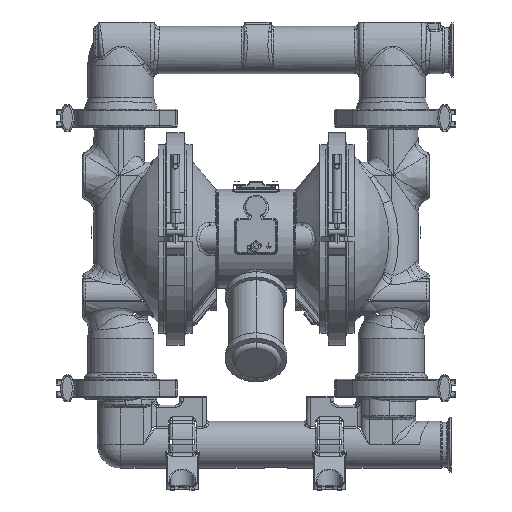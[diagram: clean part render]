
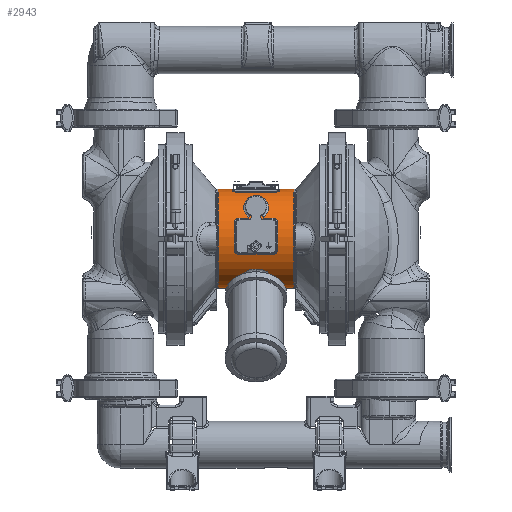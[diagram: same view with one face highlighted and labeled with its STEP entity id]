
A CAD part, top view. The second image highlights one B-rep face of the part: STEP entity #2943.
In plain terms, the highlighted cylindrical face has radius 69.85 mm (diameter 139.7 mm), a partial arc.
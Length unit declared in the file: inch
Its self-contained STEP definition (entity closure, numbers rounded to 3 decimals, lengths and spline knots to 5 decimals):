
#1=DIRECTION('',(1.,0.,0.));
#2=VECTOR('',#1,2.1);
#3=CARTESIAN_POINT('',(-1.05,2.58454,0.9395));
#4=LINE('',#3,#2);
#593=DIRECTION('',(1.,0.,0.));
#594=VECTOR('',#593,0.795);
#595=CARTESIAN_POINT('',(1.31,2.75,0.));
#596=LINE('',#595,#594);
#615=DIRECTION('',(1.,0.,0.));
#616=VECTOR('',#615,0.795);
#617=CARTESIAN_POINT('',(-2.105,2.75,0.));
#618=LINE('',#617,#616);
#1205=CARTESIAN_POINT('',(-1.31,2.64162,-0.76444));
#1207=CARTESIAN_POINT('',(-1.31,0.,0.));
#1208=DIRECTION('',(-1.,0.,0.));
#1209=DIRECTION('',(0.,0.961,-0.278));
#1210=AXIS2_PLACEMENT_3D('',#1207,#1208,#1209);
#1238=CARTESIAN_POINT('',(-1.31,1.61417,
-2.22642));
#1239=CARTESIAN_POINT('',(-1.31,1.59144,
-2.2429));
#1240=CARTESIAN_POINT('',(-1.30677,1.54774,
-2.27352));
#1241=CARTESIAN_POINT('',(-1.29563,1.48834,
-2.31276));
#1242=CARTESIAN_POINT('',(-1.28015,1.43434,
-2.34657));
#1243=CARTESIAN_POINT('',(-1.26151,1.38558,
-2.37563));
#1244=CARTESIAN_POINT('',(-1.24047,1.34181,
-2.40058));
#1245=CARTESIAN_POINT('',(-1.21742,1.30287,
-2.4219));
#1246=CARTESIAN_POINT('',(-1.1926,1.26881,
-2.43989));
#1247=CARTESIAN_POINT('',(-1.16609,1.23975,
-2.45475));
#1248=CARTESIAN_POINT('',(-1.13794,1.21615,
-2.4665));
#1249=CARTESIAN_POINT('',(-1.10831,1.19868,
-2.47502));
#1250=CARTESIAN_POINT('',(-1.07806,1.18849,
-2.47992));
#1251=CARTESIAN_POINT('',(-1.05923,1.18649,
-2.48087));
#1252=CARTESIAN_POINT('',(-1.05,1.1865,
-2.48087));
#1263=DIRECTION('',(1.,0.,0.));
#1264=VECTOR('',#1263,2.1);
#1265=CARTESIAN_POINT('',(-1.05,1.1865,
-2.48087));
#1266=LINE('',#1265,#1264);
#1288=CARTESIAN_POINT('',(1.05,1.1865,-2.48087));
#1289=CARTESIAN_POINT('',(1.05923,1.18649,-2.48087));
#1290=CARTESIAN_POINT('',(1.07806,1.18849,-2.47992));
#1291=CARTESIAN_POINT('',(1.10831,1.19868,-2.47502));
#1292=CARTESIAN_POINT('',(1.13794,1.21615,-2.4665));
#1293=CARTESIAN_POINT('',(1.16609,1.23975,-2.45475));
#1294=CARTESIAN_POINT('',(1.1926,1.26881,-2.43989));
#1295=CARTESIAN_POINT('',(1.21742,1.30287,-2.4219));
#1296=CARTESIAN_POINT('',(1.24047,1.34181,-2.40058));
#1297=CARTESIAN_POINT('',(1.26151,1.38558,-2.37563));
#1298=CARTESIAN_POINT('',(1.28015,1.43434,-2.34657));
#1299=CARTESIAN_POINT('',(1.29563,1.48834,-2.31276));
#1300=CARTESIAN_POINT('',(1.30677,1.54774,-2.27352));
#1301=CARTESIAN_POINT('',(1.31,1.59144,-2.2429));
#1302=CARTESIAN_POINT('',(1.31,1.61417,-2.22642));
#1304=CARTESIAN_POINT('',(1.31,2.64162,-0.76444));
#1327=CARTESIAN_POINT('',(1.31,0.,0.));
#1328=DIRECTION('',(1.,0.,0.));
#1329=DIRECTION('',(0.,0.587,-0.81));
#1330=AXIS2_PLACEMENT_3D('',#1327,#1328,#1329);
#1342=CARTESIAN_POINT('',(-1.31,0.,0.));
#1343=DIRECTION('',(-1.,0.,0.));
#1344=DIRECTION('',(0.,0.968,0.249));
#1345=AXIS2_PLACEMENT_3D('',#1342,#1343,#1344);
#1363=CARTESIAN_POINT('',(-1.05,2.58454,
0.9395));
#1364=CARTESIAN_POINT('',(-1.06915,2.58454,
0.9395));
#1365=CARTESIAN_POINT('',(-1.10657,2.586,
0.93549));
#1366=CARTESIAN_POINT('',(-1.16145,2.59256,
0.91726));
#1367=CARTESIAN_POINT('',(-1.21094,2.60291,
0.88759));
#1368=CARTESIAN_POINT('',(-1.25313,2.61634,
0.84735));
#1369=CARTESIAN_POINT('',(-1.28546,2.63179,
0.79825));
#1370=CARTESIAN_POINT('',(-1.30566,2.64816,
0.74224));
#1371=CARTESIAN_POINT('',(-1.31,2.65832,
0.70442));
#1372=CARTESIAN_POINT('',(-1.31,2.66331,
0.68505));
#1390=CARTESIAN_POINT('',(1.31,2.66331,0.68505));
#1391=CARTESIAN_POINT('',(1.31,2.65832,0.70442));
#1392=CARTESIAN_POINT('',(1.30566,2.64816,0.74224));
#1393=CARTESIAN_POINT('',(1.28546,2.63179,0.79825));
#1394=CARTESIAN_POINT('',(1.25313,2.61634,0.84735));
#1395=CARTESIAN_POINT('',(1.21094,2.60291,0.88759));
#1396=CARTESIAN_POINT('',(1.16145,2.59256,0.91726));
#1397=CARTESIAN_POINT('',(1.10657,2.586,0.93549));
#1398=CARTESIAN_POINT('',(1.06915,2.58454,0.9395));
#1399=CARTESIAN_POINT('',(1.05,2.58454,0.9395));
#1406=CARTESIAN_POINT('',(1.31,0.,0.));
#1407=DIRECTION('',(1.,0.,0.));
#1408=DIRECTION('',(0.,1.,0.));
#1409=AXIS2_PLACEMENT_3D('',#1406,#1407,#1408);
#1494=CARTESIAN_POINT('',(-1.31,2.75,0.));
#1533=CARTESIAN_POINT('',(1.31,2.75,0.));
#1619=DIRECTION('',(1.,0.,0.));
#1620=VECTOR('',#1619,0.795);
#1621=CARTESIAN_POINT('',(-2.105,2.64162,-0.76444));
#1622=LINE('',#1621,#1620);
#1646=DIRECTION('',(1.,0.,0.));
#1647=VECTOR('',#1646,0.795);
#1648=CARTESIAN_POINT('',(1.31,2.64162,-0.76444));
#1649=LINE('',#1648,#1647);
#2307=CARTESIAN_POINT('',(-2.105,0.,0.));
#2308=DIRECTION('',(1.,0.,0.));
#2309=DIRECTION('',(0.,1.,0.));
#2310=AXIS2_PLACEMENT_3D('',#2307,#2308,#2309);
#2322=CARTESIAN_POINT('',(2.105,0.,0.));
#2323=DIRECTION('',(-1.,0.,0.));
#2324=DIRECTION('',(0.,0.961,-0.278));
#2325=AXIS2_PLACEMENT_3D('',#2322,#2323,#2324);
#2453=VERTEX_POINT('',#1288);
#2454=VERTEX_POINT('',#1302);
#2457=CARTESIAN_POINT('',(-1.05,1.1865,
-2.48087));
#2458=VERTEX_POINT('',#2457);
#2460=VERTEX_POINT('',#1238);
#2463=VERTEX_POINT('',#1363);
#2464=VERTEX_POINT('',#1372);
#2469=CARTESIAN_POINT('',(1.05,2.58454,0.9395));
#2470=VERTEX_POINT('',#2469);
#2473=VERTEX_POINT('',#1390);
#2491=VERTEX_POINT('',#1494);
#2513=VERTEX_POINT('',#1533);
#2522=VERTEX_POINT('',#1205);
#2526=VERTEX_POINT('',#1304);
#2835=CARTESIAN_POINT('',(-2.105,2.75,0.));
#2837=VERTEX_POINT('',#2835);
#2838=CARTESIAN_POINT('',(-2.105,2.64162,-0.76444));
#2839=VERTEX_POINT('',#2838);
#2851=CARTESIAN_POINT('',(2.105,2.64162,-0.76444));
#2852=VERTEX_POINT('',#2851);
#2853=CARTESIAN_POINT('',(2.105,2.75,0.));
#2854=VERTEX_POINT('',#2853);
#2904=CARTESIAN_POINT('',(-2.155,0.,0.));
#2905=DIRECTION('',(1.,0.,0.));
#2906=DIRECTION('',(0.,0.,-1.));
#2907=AXIS2_PLACEMENT_3D('',#2904,#2905,#2906);
#2908=CYLINDRICAL_SURFACE('',#2907,2.75);
#2910=ORIENTED_EDGE('',*,*,#2909,.F.);
#2912=ORIENTED_EDGE('',*,*,#2911,.T.);
#2914=ORIENTED_EDGE('',*,*,#2913,.F.);
#2916=ORIENTED_EDGE('',*,*,#2915,.F.);
#2918=ORIENTED_EDGE('',*,*,#2917,.T.);
#2920=ORIENTED_EDGE('',*,*,#2919,.F.);
#2922=ORIENTED_EDGE('',*,*,#2921,.F.);
#2924=ORIENTED_EDGE('',*,*,#2923,.T.);
#2926=ORIENTED_EDGE('',*,*,#2925,.F.);
#2928=ORIENTED_EDGE('',*,*,#2927,.F.);
#2930=ORIENTED_EDGE('',*,*,#2929,.F.);
#2932=ORIENTED_EDGE('',*,*,#2931,.F.);
#2934=ORIENTED_EDGE('',*,*,#2933,.F.);
#2936=ORIENTED_EDGE('',*,*,#2935,.F.);
#2938=ORIENTED_EDGE('',*,*,#2937,.F.);
#2940=ORIENTED_EDGE('',*,*,#2939,.F.);
#2941=EDGE_LOOP('',(#2910,#2912,#2914,#2916,#2918,#2920,#2922,#2924,#2926,#2928,
#2930,#2932,#2934,#2936,#2938,#2940));
#2942=FACE_OUTER_BOUND('',#2941,.F.);
#2943=ADVANCED_FACE('',(#2942),#2908,.T.);
#1211=CIRCLE('',#1210,2.75);
#1253=B_SPLINE_CURVE_WITH_KNOTS('',3,(#1238,#1239,#1240,#1241,#1242,#1243,#1244,
#1245,#1246,#1247,#1248,#1249,#1250,#1251,#1252),.UNSPECIFIED.,.F.,.F.,(4,1,1,1,
1,1,1,1,1,1,1,1,4),(0.,0.08333,0.16667,0.25,
0.33333,0.41667,0.5,0.58333,0.66667,
0.75,0.83333,0.91667,1.),.UNSPECIFIED.);
#1303=B_SPLINE_CURVE_WITH_KNOTS('',3,(#1288,#1289,#1290,#1291,#1292,#1293,#1294,
#1295,#1296,#1297,#1298,#1299,#1300,#1301,#1302),.UNSPECIFIED.,.F.,.F.,(4,1,1,1,
1,1,1,1,1,1,1,1,4),(0.,0.08333,0.16667,0.25,
0.33333,0.41667,0.5,0.58333,0.66667,
0.75,0.83333,0.91667,1.),.UNSPECIFIED.);
#1331=CIRCLE('',#1330,2.75);
#1346=CIRCLE('',#1345,2.75);
#1373=B_SPLINE_CURVE_WITH_KNOTS('',3,(#1363,#1364,#1365,#1366,#1367,#1368,#1369,
#1370,#1371,#1372),.UNSPECIFIED.,.F.,.F.,(4,1,1,1,1,1,1,4),(0.,
0.14286,0.28571,0.42857,0.57143,
0.71429,0.85714,1.),.UNSPECIFIED.);
#1400=B_SPLINE_CURVE_WITH_KNOTS('',3,(#1390,#1391,#1392,#1393,#1394,#1395,#1396,
#1397,#1398,#1399),.UNSPECIFIED.,.F.,.F.,(4,1,1,1,1,1,1,4),(0.,
0.14286,0.28571,0.42857,0.57143,
0.71429,0.85714,1.),.UNSPECIFIED.);
#1410=CIRCLE('',#1409,2.75);
#2311=CIRCLE('',#2310,2.75);
#2326=CIRCLE('',#2325,2.75);
#2909=EDGE_CURVE('',#2837,#2839,#2311,.T.);
#2911=EDGE_CURVE('',#2837,#2491,#618,.T.);
#2913=EDGE_CURVE('',#2464,#2491,#1346,.T.);
#2915=EDGE_CURVE('',#2463,#2464,#1373,.T.);
#2917=EDGE_CURVE('',#2463,#2470,#4,.T.);
#2919=EDGE_CURVE('',#2473,#2470,#1400,.T.);
#2921=EDGE_CURVE('',#2513,#2473,#1410,.T.);
#2923=EDGE_CURVE('',#2513,#2854,#596,.T.);
#2925=EDGE_CURVE('',#2852,#2854,#2326,.T.);
#2927=EDGE_CURVE('',#2526,#2852,#1649,.T.);
#2929=EDGE_CURVE('',#2454,#2526,#1331,.T.);
#2931=EDGE_CURVE('',#2453,#2454,#1303,.T.);
#2933=EDGE_CURVE('',#2458,#2453,#1266,.T.);
#2935=EDGE_CURVE('',#2460,#2458,#1253,.T.);
#2937=EDGE_CURVE('',#2522,#2460,#1211,.T.);
#2939=EDGE_CURVE('',#2839,#2522,#1622,.T.);
